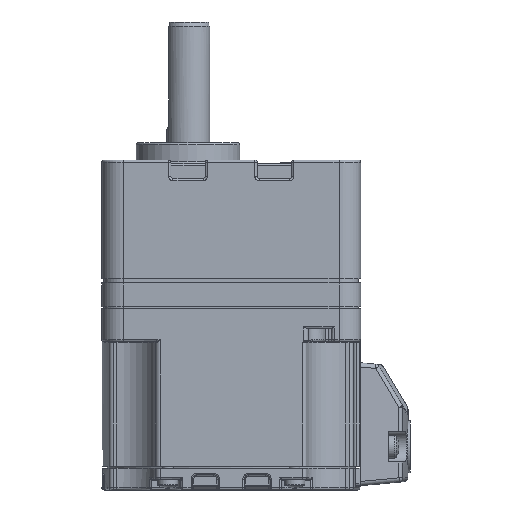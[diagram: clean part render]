
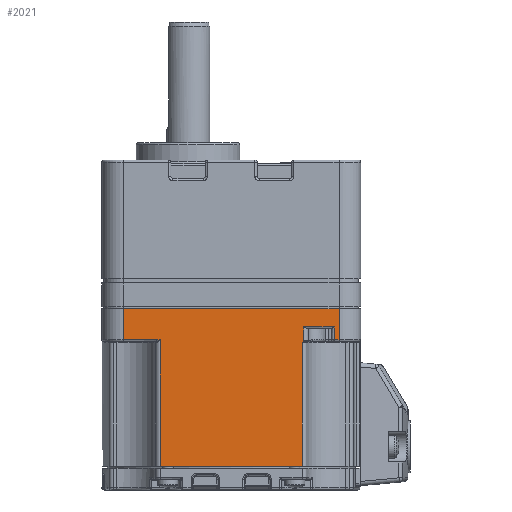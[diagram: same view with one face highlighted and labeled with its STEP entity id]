
A CAD part, left-side view. The second image highlights one B-rep face of the part: STEP entity #2021.
In plain terms, the highlighted planar face has unit normal (-1, 0, 0).
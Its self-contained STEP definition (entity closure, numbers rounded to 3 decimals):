
#1879=CARTESIAN_POINT('',(-60.,6.15,5.728));
#1880=VERTEX_POINT('',#1879);
#1894=CARTESIAN_POINT('',(-60.,13.15,5.728));
#1895=VERTEX_POINT('',#1894);
#1896=CARTESIAN_POINT('',(-60.,6.15,5.728));
#1897=DIRECTION('',(0.0,1.0,0.0));
#1898=VECTOR('',#1897,7.);
#1899=LINE('',#1896,#1898);
#1900=EDGE_CURVE('',#1880,#1895,#1899,.T.);
#1924=CARTESIAN_POINT('',(-60.,60.,9.928));
#1925=DIRECTION('',(-1.0,0.0,0.0));
#1926=DIRECTION('',(0.0,0.0,1.0));
#1927=AXIS2_PLACEMENT_3D('',#1924,#1925,#1926);
#1928=PLANE('',#1927);
#1929=CARTESIAN_POINT('',(-60.,13.15,2.432));
#1930=VERTEX_POINT('',#1929);
#1931=CARTESIAN_POINT('',(-60.,13.15,2.432));
#1932=DIRECTION('',(0.0,0.0,1.0));
#1933=VECTOR('',#1932,3.296);
#1934=LINE('',#1931,#1933);
#1935=EDGE_CURVE('',#1930,#1895,#1934,.T.);
#1936=ORIENTED_EDGE('',*,*,#1935,.T.);
#1937=ORIENTED_EDGE('',*,*,#1900,.F.);
#1938=CARTESIAN_POINT('',(-60.,6.15,2.728));
#1939=VERTEX_POINT('',#1938);
#1940=CARTESIAN_POINT('',(-60.,6.15,5.728));
#1941=DIRECTION('',(0.0,0.0,-1.0));
#1942=VECTOR('',#1941,3.);
#1943=LINE('',#1940,#1942);
#1944=EDGE_CURVE('',#1880,#1939,#1943,.T.);
#1945=ORIENTED_EDGE('',*,*,#1944,.T.);
#1946=CARTESIAN_POINT('',(-60.,5.,2.728));
#1947=VERTEX_POINT('',#1946);
#1948=CARTESIAN_POINT('',(-60.,5.,2.728));
#1949=DIRECTION('',(0.0,1.0,0.0));
#1950=VECTOR('',#1949,1.15);
#1951=LINE('',#1948,#1950);
#1952=EDGE_CURVE('',#1947,#1939,#1951,.T.);
#1953=ORIENTED_EDGE('',*,*,#1952,.F.);
#1954=CARTESIAN_POINT('',(-60.,5.,9.928));
#1955=VERTEX_POINT('',#1954);
#1956=CARTESIAN_POINT('',(-60.,5.,9.928));
#1957=DIRECTION('',(0.0,0.0,-1.0));
#1958=VECTOR('',#1957,7.2);
#1959=LINE('',#1956,#1958);
#1960=EDGE_CURVE('',#1955,#1947,#1959,.T.);
#1961=ORIENTED_EDGE('',*,*,#1960,.F.);
#1962=CARTESIAN_POINT('',(-60.,55.,9.928));
#1963=VERTEX_POINT('',#1962);
#1964=CARTESIAN_POINT('',(-60.,5.,9.928));
#1965=DIRECTION('',(0.0,1.0,0.0));
#1966=VECTOR('',#1965,50.0);
#1967=LINE('',#1964,#1966);
#1968=EDGE_CURVE('',#1955,#1963,#1967,.T.);
#1969=ORIENTED_EDGE('',*,*,#1968,.T.);
#1970=CARTESIAN_POINT('',(-60.,55.,2.728));
#1971=VERTEX_POINT('',#1970);
#1972=CARTESIAN_POINT('',(-60.,55.,2.728));
#1973=DIRECTION('',(0.0,0.0,1.0));
#1974=VECTOR('',#1973,7.2);
#1975=LINE('',#1972,#1974);
#1976=EDGE_CURVE('',#1971,#1963,#1975,.T.);
#1977=ORIENTED_EDGE('',*,*,#1976,.F.);
#1978=CARTESIAN_POINT('',(-60.,46.5,2.728));
#1979=VERTEX_POINT('',#1978);
#1980=CARTESIAN_POINT('',(-60.,46.5,2.728));
#1981=DIRECTION('',(0.0,1.0,0.0));
#1982=VECTOR('',#1981,8.5);
#1983=LINE('',#1980,#1982);
#1984=EDGE_CURVE('',#1979,#1971,#1983,.T.);
#1985=ORIENTED_EDGE('',*,*,#1984,.F.);
#1986=CARTESIAN_POINT('',(-60.,46.5,-26.572));
#1987=VERTEX_POINT('',#1986);
#1988=CARTESIAN_POINT('',(-60.,46.5,2.728));
#1989=DIRECTION('',(0.0,0.0,-1.0));
#1990=VECTOR('',#1989,29.3);
#1991=LINE('',#1988,#1990);
#1992=EDGE_CURVE('',#1979,#1987,#1991,.T.);
#1993=ORIENTED_EDGE('',*,*,#1992,.T.);
#1994=CARTESIAN_POINT('',(-60.,13.5,-26.572));
#1995=VERTEX_POINT('',#1994);
#1996=CARTESIAN_POINT('',(-60.,46.5,-26.572));
#1997=DIRECTION('',(0.0,-1.0,0.0));
#1998=VECTOR('',#1997,33.0);
#1999=LINE('',#1996,#1998);
#2000=EDGE_CURVE('',#1987,#1995,#1999,.T.);
#2001=ORIENTED_EDGE('',*,*,#2000,.T.);
#2002=CARTESIAN_POINT('',(-60.,13.5,2.128));
#2003=VERTEX_POINT('',#2002);
#2004=CARTESIAN_POINT('',(-60.,13.5,2.128));
#2005=DIRECTION('',(0.0,0.0,-1.0));
#2006=VECTOR('',#2005,28.7);
#2007=LINE('',#2004,#2006);
#2008=EDGE_CURVE('',#2003,#1995,#2007,.T.);
#2009=ORIENTED_EDGE('',*,*,#2008,.F.);
#2010=CARTESIAN_POINT('',(-60.,13.15,2.432));
#2011=CARTESIAN_POINT('',(-60.,13.272,2.339));
#2012=CARTESIAN_POINT('',(-60.,13.385,2.235));
#2013=CARTESIAN_POINT('',(-60.,13.498,2.13));
#2014=CARTESIAN_POINT('',(-60.,13.499,2.129));
#2015=CARTESIAN_POINT('',(-60.,13.5,2.128));
#2016=B_SPLINE_CURVE_WITH_KNOTS('',3,(#2010,#2011,#2012,#2013,#2014,#2015),.UNSPECIFIED.,.F.,.U.,(4,2,4),(0.0,0.046,0.046),.UNSPECIFIED.);
#2017=EDGE_CURVE('',#1930,#2003,#2016,.T.);
#2018=ORIENTED_EDGE('',*,*,#2017,.F.);
#2019=EDGE_LOOP('',(#1936,#1937,#1945,#1953,#1961,#1969,#1977,#1985,#1993,#2001,#2009,#2018));
#2020=FACE_OUTER_BOUND('',#2019,.T.);
#2021=ADVANCED_FACE('',(#2020),#1928,.T.);
